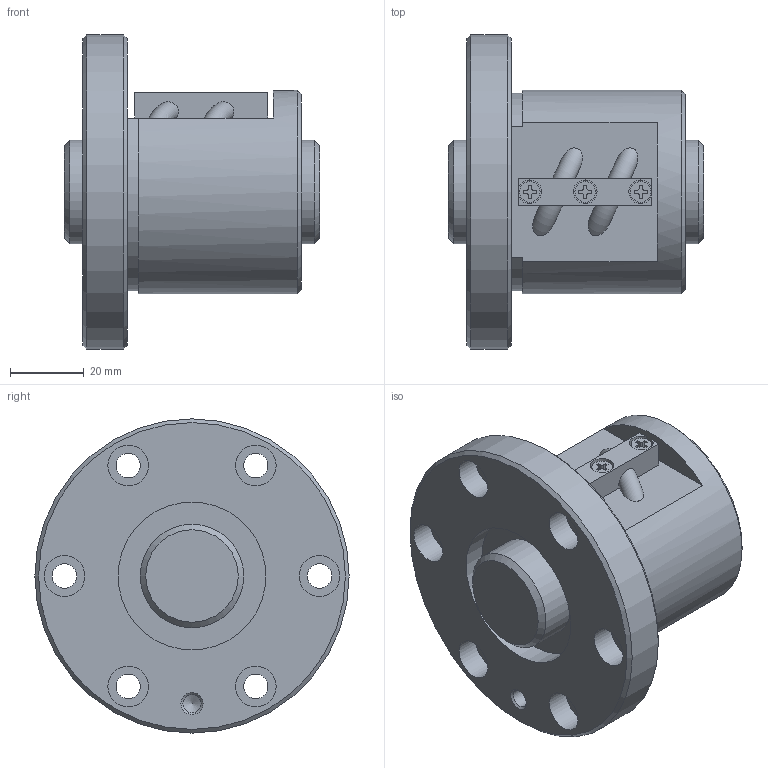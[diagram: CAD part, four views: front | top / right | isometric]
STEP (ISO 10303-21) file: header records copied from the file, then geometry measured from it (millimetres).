
FILE_DESCRIPTION(/* description */ ('STEP AP203'),/* implementation_level */ '2;1');
FILE_NAME(/* name */ 'SBN2805V-5G0+69LC0(0000)',/* time_stamp */ '2024-05-28T10:24:42+02:00',/* author */ ('License CC BY-ND 4.0'),/* organization */ ('CADENAS'),/* preprocessor_version */ 'ST-DEVELOPER v19.3',/* originating_system */ 'PARTsolutions',/* authorisation */ ' ');
FILE_SCHEMA (('CONFIG_CONTROL_DESIGN'));
Length unit declared in the file: millimetre
Products named in the file (3): SBN2805V-5G0+69LC0(0000); N010SBN2805V-50Shaft; N00SBN2805V-5Nut
Assembly tree (2 placements, depth 2):
  SBN2805V-5G0+69LC0(0000)
    N010SBN2805V-50Shaft
    N00SBN2805V-5Nut
Bounding box: 69 x 85 x 85 mm (x, y, z)
Volume: 166804.6 mm3; surface area: 36993.7 mm2
Topology: 2 solids, 2 shells, 121 faces, 285 edges, 188 vertices
Faces by surface type: plane 69, cylinder 41, cone 7, torus 4
Full cylindrical faces by diameter (mm): 4.8 x3, 4.917 x1, 5.6 x3, 6.4 x1, 6.6 x6, 11 x6, 28 x2, 40 x2, 55 x1, 85 x1
Entity records: 3477 total; most frequent: CARTESIAN_POINT 657, DIRECTION 578, ORIENTED_EDGE 498, EDGE_CURVE 249, AXIS2_PLACEMENT_3D 213, FACE_BOUND 189, EDGE_LOOP 188, VERTEX_POINT 186
